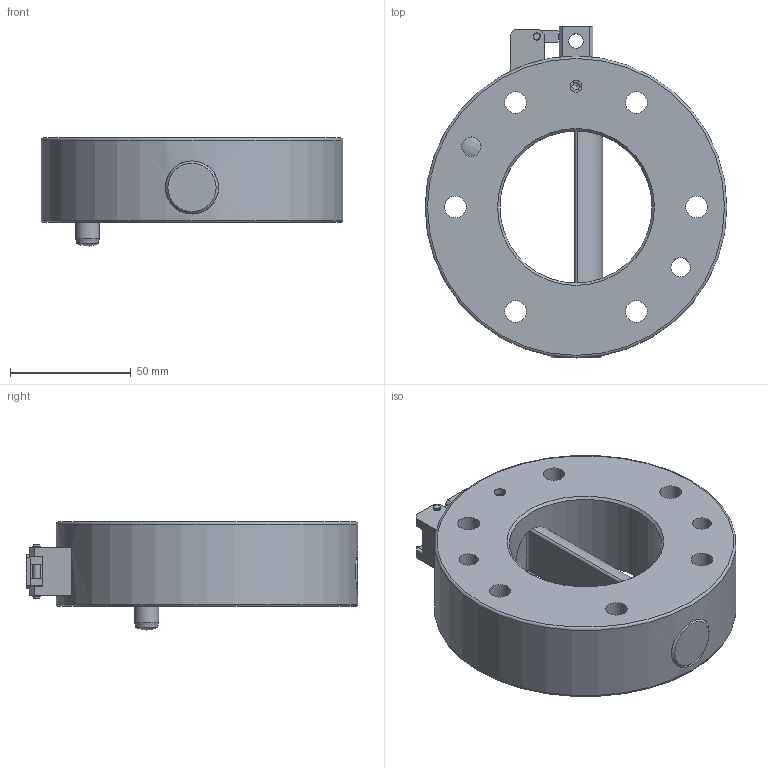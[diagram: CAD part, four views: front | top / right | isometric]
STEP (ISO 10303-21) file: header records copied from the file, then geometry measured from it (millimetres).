
FILE_DESCRIPTION(/* description */ (''),/* implementation_level */ '2;1');
FILE_NAME(/* name */ '\\dc01\daten\CAD\Standard\NEUE DATEN 2016\Daten\2 SWS\4 3-D CAD\125\G-SWS125-2O-VS2.stp',/* time_stamp */ '2017-01-20T09:19:11+01:00',/* author */ ('ysplieth'),/* organization */ (''),/* preprocessor_version */ 'ST-DEVELOPER v15.2',/* originating_system */ 'Autodesk Inventor 2014',/* authorisation */ '');
FILE_SCHEMA (('AUTOMOTIVE_DESIGN { 1 0 10303 214 3 1 1 }'));
Length unit declared in the file: millimetre
Products named in the file (1): G-SWS125-2O-VS2
Bounding box: 125 x 137.5 x 44.75 mm (x, y, z)
Volume: 314936 mm3; surface area: 53492.2 mm2
Topology: 1 solids, 5 shells, 167 faces, 401 edges, 260 vertices
Faces by surface type: plane 78, cylinder 59, cone 16, torus 8, bspline 4, sphere 2
Full cylindrical faces by diameter (mm): 2.459 x2, 3 x7, 3.4 x2, 4 x1, 4.917 x3, 5.5 x2, 6 x1, 6.5 x2, 8 x2, 9 x6, 10 x1, 15 x6, 22 x2, 63 x1, 125 x1
Entity records: 5003 total; most frequent: CARTESIAN_POINT 1300, DIRECTION 720, ORIENTED_EDGE 626, EDGE_CURVE 313, AXIS2_PLACEMENT_3D 291, EDGE_LOOP 274, VERTEX_POINT 233, ADVANCED_FACE 167
